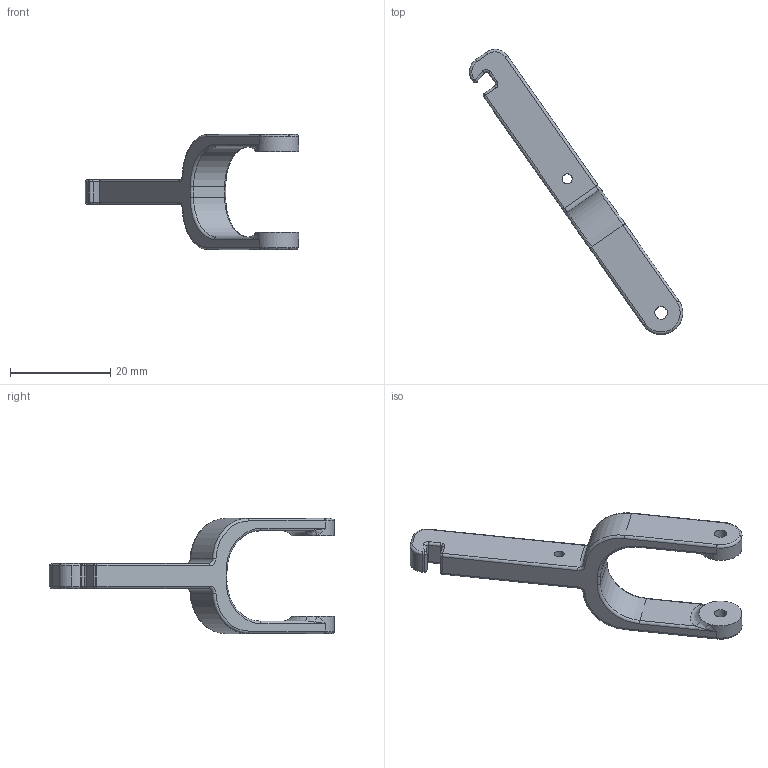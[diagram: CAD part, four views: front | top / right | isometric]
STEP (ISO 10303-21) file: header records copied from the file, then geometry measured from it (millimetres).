
FILE_DESCRIPTION (( 'STEP AP214' ), '1' );
FILE_NAME ('TrainAtterissageMarlin_2.STEP', '2026-01-03T15:19:26', ( '' ), ( '' ), 'SwSTEP 2.0', 'SolidWorks 2010', '' );
FILE_SCHEMA (( 'AUTOMOTIVE_DESIGN' ));
Length unit declared in the file: millimetre
Products named in the file (1): TrainAtterissageMarlin_2
Bounding box: 42.61 x 56.94 x 23 mm (x, y, z)
Volume: 3336.3 mm3; surface area: 2643.6 mm2
Topology: 1 solids, 1 shells, 105 faces, 251 edges, 142 vertices
Faces by surface type: cylinder 47, torus 30, plane 16, bspline 8, sphere 4
Entity records: 3203 total; most frequent: CARTESIAN_POINT 725, DIRECTION 575, ORIENTED_EDGE 486, AXIS2_PLACEMENT_3D 246, EDGE_CURVE 243, CIRCLE 148, VERTEX_POINT 140, EDGE_LOOP 111
